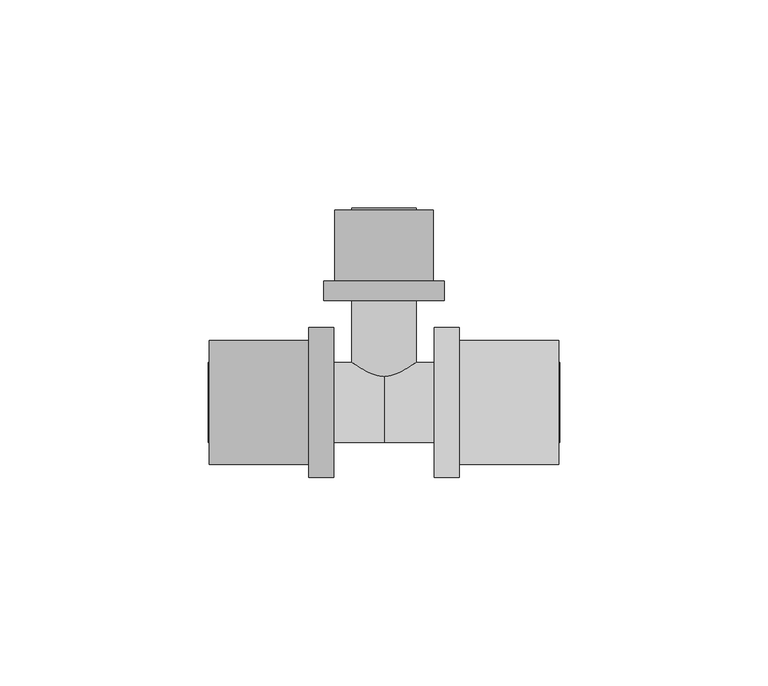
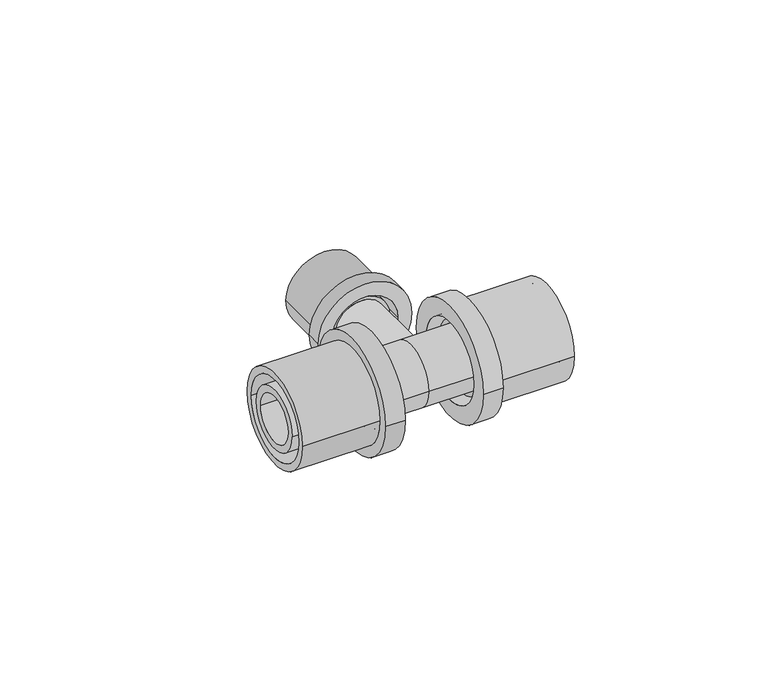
"""IFC4 building model written with IfcOpenShell, lengths in millimetres: pipe fitting geometry, FASTLOC_T-piece_EX+ : FSL T-Piece EX+ AT."""

from ifc_helpers import new_model, si_unit, frame, origin, place, context, project, spatial, polyline, circle_curve, source, transform, mapped, element, save
from ifc_brep_helpers import plane_surface, cylinder_surface, revolved_surface, advanced_brep


def pipe_fitting_24fba4d8(model_context):
    return source(origin(), model_context, "Body", "AdvancedBrep", [
        advanced_brep(
        [(18.1, 18.0, 0.0), (18.1, -18.0, 0.0), (12.1, -18.0, 0.0), (12.1, 18.0, 0.0), (41.9, 14.85, 0.0), (41.9, -14.85, 0.0), (18.1, -14.85, 0.0), (18.1, 14.85, 0.0), (12.1, 12.65, 0.0), (12.1, -12.65, 0.0), (41.9, -12.65, 0.0), (41.9, 12.65, 0.0)],
        [
            (0, 1, circle_curve(frame((18.1, 0.0, 0.0), z_axis=(-1.0, 0.0, 0.0), x_axis=(0.0, -1.0, 0.0)), 18.0)),
            (1, 2),
            (2, 3, circle_curve(frame((12.1, 0.0, 0.0), z_axis=(1.0, 0.0, 0.0), x_axis=(0.0, -1.0, 0.0)), 18.0)),
            (3, 0),
            (4, 5, circle_curve(frame((41.9, 0.0, 0.0), z_axis=(-1.0, 0.0, 0.0), x_axis=(0.0, -1.0, 0.0)), 14.85)),
            (5, 6),
            (6, 7, circle_curve(frame((18.1, 0.0, 0.0), z_axis=(1.0, 0.0, 0.0), x_axis=(0.0, -1.0, 0.0)), 14.85)),
            (7, 4),
            (8, 9, circle_curve(frame((12.1, 0.0, 0.0), z_axis=(-1.0, 0.0, 0.0), x_axis=(0.0, -1.0, 0.0)), 12.65)),
            (9, 10),
            (10, 11, circle_curve(frame((41.9, 0.0, 0.0), z_axis=(1.0, 0.0, 0.0), x_axis=(0.0, -1.0, 0.0)), 12.65)),
            (11, 8),
            (1, 0, circle_curve(frame((18.1, 0.0, 0.0), z_axis=(-1.0, 0.0, 0.0), x_axis=(0.0, 1.0, 0.0)), 18.0)),
            (3, 2, circle_curve(frame((12.1, 0.0, 0.0), z_axis=(1.0, 0.0, 0.0), x_axis=(0.0, 1.0, 0.0)), 18.0)),
            (6, 7, circle_curve(frame((18.1, 0.0, 0.0), z_axis=(-1.0, 0.0, 0.0), x_axis=(0.0, 1.0, 0.0)), 14.85)),
            (5, 4, circle_curve(frame((41.9, 0.0, 0.0), z_axis=(-1.0, 0.0, 0.0), x_axis=(0.0, 1.0, 0.0)), 14.85)),
            (10, 11, circle_curve(frame((41.9, 0.0, 0.0), z_axis=(-1.0, 0.0, 0.0), x_axis=(0.0, 1.0, 0.0)), 12.65)),
            (9, 8, circle_curve(frame((12.1, 0.0, 0.0), z_axis=(-1.0, 0.0, 0.0), x_axis=(0.0, 1.0, 0.0)), 12.65)),
        ],
        [
            cylinder_surface(frame((12.1, 0.0, 0.0), z_axis=(1.0, 0.0, 0.0), x_axis=(0.0, -1.0, 0.0)), 18.0),
            cylinder_surface(frame((12.1, 0.0, 0.0), z_axis=(1.0, 0.0, 0.0), x_axis=(0.0, -1.0, 0.0)), 14.85),
            revolved_surface(polyline([(41.9, -12.65, 0.0), (12.1, -12.65, 0.0)]), (12.1, 0.0, 0.0), (1.0, 0.0, 0.0)),
            cylinder_surface(frame((12.1, 0.0, 0.0), z_axis=(1.0, 0.0, 0.0), x_axis=(0.0, 1.0, 0.0)), 18.0),
            plane_surface(frame((18.1, 0.0, 0.0), z_axis=(1.0, 0.0, 0.0), x_axis=(0.0, 1.0, 0.0))),
            cylinder_surface(frame((12.1, 0.0, 0.0), z_axis=(1.0, 0.0, 0.0), x_axis=(0.0, 1.0, 0.0)), 14.85),
            plane_surface(frame((41.9, 0.0, 0.0), z_axis=(1.0, 0.0, 0.0), x_axis=(0.0, 1.0, 0.0))),
            revolved_surface(polyline([(41.9, 12.65, 0.0), (12.1, 12.65, 0.0)]), (12.1, 0.0, 0.0), (1.0, 0.0, 0.0)),
            plane_surface(frame((12.1, 0.0, 0.0), z_axis=(-1.0, 0.0, 0.0), x_axis=(0.0, 1.0, 0.0))),
        ],
        [
            (0, [[1, 2, 3, 4]]),
            (1, [[5, 6, 7, 8]]),
            (2, [[9, 10, 11, 12]]),
            (3, [[13, -4, 14, -2]]),
            (4, [[-13, -1], [15, -7]]),
            (5, [[16, -8, -15, -6]]),
            (6, [[-16, -5], [17, -11]]),
            (7, [[18, -12, -17, -10]]),
            (8, [[-14, -3], [-18, -9]]),
        ],
    ),
        advanced_brep(
        [(-18.1, -18.0, 0.0), (-18.1, 18.0, 0.0), (-12.1, 18.0, 0.0), (-12.1, -18.0, 0.0), (-41.9, -14.85, 0.0), (-41.9, 14.85, 0.0), (-18.1, 14.85, 0.0), (-18.1, -14.85, 0.0), (-12.1, -12.65, 0.0), (-12.1, 12.65, 0.0), (-41.9, 12.65, 0.0), (-41.9, -12.65, 0.0)],
        [
            (0, 1, circle_curve(frame((-18.1, 0.0, 0.0), z_axis=(1.0, 0.0, 0.0), x_axis=(0.0, 1.0, 0.0)), 18.0)),
            (1, 2),
            (2, 3, circle_curve(frame((-12.1, 0.0, 0.0), z_axis=(-1.0, 0.0, 0.0), x_axis=(0.0, 1.0, 0.0)), 18.0)),
            (3, 0),
            (4, 5, circle_curve(frame((-41.9, 0.0, 0.0), z_axis=(1.0, 0.0, 0.0), x_axis=(0.0, 1.0, 0.0)), 14.85)),
            (5, 6),
            (6, 7, circle_curve(frame((-18.1, 0.0, 0.0), z_axis=(-1.0, 0.0, 0.0), x_axis=(0.0, 1.0, 0.0)), 14.85)),
            (7, 4),
            (8, 9, circle_curve(frame((-12.1, 0.0, 0.0), z_axis=(1.0, 0.0, 0.0), x_axis=(0.0, 1.0, 0.0)), 12.65)),
            (9, 10),
            (10, 11, circle_curve(frame((-41.9, 0.0, 0.0), z_axis=(-1.0, 0.0, 0.0), x_axis=(0.0, 1.0, 0.0)), 12.65)),
            (11, 8),
            (1, 0, circle_curve(frame((-18.1, 0.0, 0.0), z_axis=(1.0, 0.0, 0.0), x_axis=(0.0, -1.0, 0.0)), 18.0)),
            (3, 2, circle_curve(frame((-12.1, 0.0, 0.0), z_axis=(-1.0, 0.0, 0.0), x_axis=(0.0, -1.0, 0.0)), 18.0)),
            (6, 7, circle_curve(frame((-18.1, 0.0, 0.0), z_axis=(1.0, 0.0, 0.0), x_axis=(0.0, -1.0, 0.0)), 14.85)),
            (5, 4, circle_curve(frame((-41.9, 0.0, 0.0), z_axis=(1.0, 0.0, 0.0), x_axis=(0.0, -1.0, 0.0)), 14.85)),
            (10, 11, circle_curve(frame((-41.9, 0.0, 0.0), z_axis=(1.0, 0.0, 0.0), x_axis=(0.0, -1.0, 0.0)), 12.65)),
            (9, 8, circle_curve(frame((-12.1, 0.0, 0.0), z_axis=(1.0, 0.0, 0.0), x_axis=(0.0, -1.0, 0.0)), 12.65)),
        ],
        [
            cylinder_surface(frame((-12.1, 0.0, 0.0), z_axis=(-1.0, 0.0, 0.0), x_axis=(0.0, 1.0, 0.0)), 18.0),
            cylinder_surface(frame((-12.1, 0.0, 0.0), z_axis=(-1.0, 0.0, 0.0), x_axis=(0.0, 1.0, 0.0)), 14.85),
            revolved_surface(polyline([(-41.9, 12.65, 0.0), (-12.1, 12.65, 0.0)]), (-12.1, 0.0, 0.0), (-1.0, 0.0, 0.0)),
            cylinder_surface(frame((-12.1, 0.0, 0.0), z_axis=(-1.0, 0.0, 0.0), x_axis=(0.0, -1.0, 0.0)), 18.0),
            plane_surface(frame((-18.1, 0.0, 0.0), z_axis=(-1.0, 0.0, 0.0), x_axis=(0.0, -1.0, 0.0))),
            cylinder_surface(frame((-12.1, 0.0, 0.0), z_axis=(-1.0, 0.0, 0.0), x_axis=(0.0, -1.0, 0.0)), 14.85),
            plane_surface(frame((-41.9, 0.0, 0.0), z_axis=(-1.0, 0.0, 0.0), x_axis=(0.0, -1.0, 0.0))),
            revolved_surface(polyline([(-41.9, -12.65, 0.0), (-12.1, -12.65, 0.0)]), (-12.1, 0.0, 0.0), (-1.0, 0.0, 0.0)),
            plane_surface(frame((-12.1, 0.0, 0.0), z_axis=(1.0, 0.0, 0.0), x_axis=(0.0, -1.0, 0.0))),
        ],
        [
            (0, [[1, 2, 3, 4]]),
            (1, [[5, 6, 7, 8]]),
            (2, [[9, 10, 11, 12]]),
            (3, [[13, -4, 14, -2]]),
            (4, [[-13, -1], [15, -7]]),
            (5, [[16, -8, -15, -6]]),
            (6, [[-16, -5], [17, -11]]),
            (7, [[18, -12, -17, -10]]),
            (8, [[-14, -3], [-18, -9]]),
        ],
    ),
        advanced_brep(
        [(-14.5, 29.2, 0.0), (14.5, 29.2, 0.0), (14.5, 24.5, 0.0), (-14.5, 24.5, 0.0), (-11.85, 46.2, 0.0), (11.85, 46.2, 0.0), (11.85, 29.2, 0.0), (-11.85, 29.2, 0.0), (-10.15, 24.5, 0.0), (10.15, 24.5, 0.0), (10.15, 46.2, 0.0), (-10.15, 46.2, 0.0)],
        [
            (0, 1, circle_curve(frame((0.0, 29.2, 0.0), z_axis=(0.0, -1.0, 0.0), x_axis=(1.0, 0.0, 0.0)), 14.5)),
            (1, 2),
            (2, 3, circle_curve(frame((0.0, 24.5, 0.0), z_axis=(0.0, 1.0, 0.0), x_axis=(1.0, 0.0, 0.0)), 14.5)),
            (3, 0),
            (4, 5, circle_curve(frame((0.0, 46.2, 0.0), z_axis=(0.0, -1.0, 0.0), x_axis=(1.0, 0.0, 0.0)), 11.85)),
            (5, 6),
            (6, 7, circle_curve(frame((0.0, 29.2, 0.0), z_axis=(0.0, 1.0, 0.0), x_axis=(1.0, 0.0, 0.0)), 11.85)),
            (7, 4),
            (8, 9, circle_curve(frame((0.0, 24.5, 0.0), z_axis=(0.0, -1.0, 0.0), x_axis=(1.0, 0.0, 0.0)), 10.15)),
            (9, 10),
            (10, 11, circle_curve(frame((0.0, 46.2, 0.0), z_axis=(0.0, 1.0, 0.0), x_axis=(1.0, 0.0, 0.0)), 10.15)),
            (11, 8),
            (1, 0, circle_curve(frame((0.0, 29.2, 0.0), z_axis=(0.0, -1.0, 0.0), x_axis=(-1.0, 0.0, 0.0)), 14.5)),
            (3, 2, circle_curve(frame((0.0, 24.5, 0.0), z_axis=(0.0, 1.0, 0.0), x_axis=(-1.0, 0.0, 0.0)), 14.5)),
            (6, 7, circle_curve(frame((0.0, 29.2, 0.0), z_axis=(0.0, -1.0, 0.0), x_axis=(-1.0, 0.0, 0.0)), 11.85)),
            (5, 4, circle_curve(frame((0.0, 46.2, 0.0), z_axis=(0.0, -1.0, 0.0), x_axis=(-1.0, 0.0, 0.0)), 11.85)),
            (10, 11, circle_curve(frame((0.0, 46.2, 0.0), z_axis=(0.0, -1.0, 0.0), x_axis=(-1.0, 0.0, 0.0)), 10.15)),
            (9, 8, circle_curve(frame((0.0, 24.5, 0.0), z_axis=(0.0, -1.0, 0.0), x_axis=(-1.0, 0.0, 0.0)), 10.15)),
        ],
        [
            cylinder_surface(frame((0.0, 24.5, 0.0), z_axis=(0.0, 1.0, 0.0), x_axis=(1.0, 0.0, 0.0)), 14.5),
            cylinder_surface(frame((0.0, 24.5, 0.0), z_axis=(0.0, 1.0, 0.0), x_axis=(1.0, 0.0, 0.0)), 11.85),
            revolved_surface(polyline([(10.15, 46.2, 0.0), (10.15, 24.5, 0.0)]), (0.0, 24.5, 0.0), (0.0, 1.0, 0.0)),
            cylinder_surface(frame((0.0, 24.5, 0.0), z_axis=(0.0, 1.0, 0.0), x_axis=(-1.0, 0.0, 0.0)), 14.5),
            plane_surface(frame((0.0, 29.2, 0.0), z_axis=(0.0, 1.0, 0.0), x_axis=(-1.0, 0.0, 0.0))),
            cylinder_surface(frame((0.0, 24.5, 0.0), z_axis=(0.0, 1.0, 0.0), x_axis=(-1.0, 0.0, 0.0)), 11.85),
            plane_surface(frame((0.0, 46.2, 0.0), z_axis=(0.0, 1.0, 0.0), x_axis=(-1.0, 0.0, 0.0))),
            revolved_surface(polyline([(-10.15, 46.2, 0.0), (-10.15, 24.5, 0.0)]), (0.0, 24.5, 0.0), (0.0, 1.0, 0.0)),
            plane_surface(frame((0.0, 24.5, 0.0), z_axis=(0.0, -1.0, 0.0), x_axis=(-1.0, 0.0, 0.0))),
        ],
        [
            (0, [[1, 2, 3, 4]]),
            (1, [[5, 6, 7, 8]]),
            (2, [[9, 10, 11, 12]]),
            (3, [[13, -4, 14, -2]]),
            (4, [[-13, -1], [15, -7]]),
            (5, [[16, -8, -15, -6]]),
            (6, [[-16, -5], [17, -11]]),
            (7, [[18, -12, -17, -10]]),
            (8, [[-14, -3], [-18, -9]]),
        ],
    ),
        advanced_brep(
        [(0.0, 9.6, 0.0), (0.0, -9.6, 0.0), (-15.3, -9.6, 0.0), (-15.3, 9.6, 0.0), (15.3, 9.6, 0.0), (15.3, -9.6, 0.0), (18.1, 11.1, 0.0), (18.1, -11.1, 0.0), (15.3, -11.1, 0.0), (15.3, 11.1, 0.0), (42.1, 9.6, 0.0), (42.1, -9.6, 0.0), (18.1, -9.6, 0.0), (18.1, 9.6, 0.0), (-42.1, 7.35, 0.0), (-42.1, -7.35, 0.0), (42.1, -7.35, 0.0), (42.1, 7.35, 0.0), (-18.1, 9.6, 0.0), (-18.1, -9.6, 0.0), (-42.1, -9.6, 0.0), (-42.1, 9.6, 0.0), (-15.3, 11.1, 0.0), (-15.3, -11.1, 0.0), (-18.1, -11.1, 0.0), (-18.1, 11.1, 0.0)],
        [
            (0, 1, circle_curve(frame((0.0, 0.0, 0.0), z_axis=(-1.0, 0.0, 0.0), x_axis=(0.0, -1.0, 0.0)), 9.6)),
            (1, 2),
            (2, 3, circle_curve(frame((-15.3, 0.0, 0.0), z_axis=(1.0, 0.0, 0.0), x_axis=(0.0, -1.0, 0.0)), 9.6)),
            (3, 0),
            (4, 5, circle_curve(frame((15.3, 0.0, 0.0), z_axis=(-1.0, 0.0, 0.0), x_axis=(0.0, -1.0, 0.0)), 9.6)),
            (5, 1),
            (0, 4),
            (6, 7, circle_curve(frame((18.1, 0.0, 0.0), z_axis=(-1.0, 0.0, 0.0), x_axis=(0.0, -1.0, 0.0)), 11.1)),
            (7, 8),
            (8, 9, circle_curve(frame((15.3, 0.0, 0.0), z_axis=(1.0, 0.0, 0.0), x_axis=(0.0, -1.0, 0.0)), 11.1)),
            (9, 6),
            (10, 11, circle_curve(frame((42.1, 0.0, 0.0), z_axis=(-1.0, 0.0, 0.0), x_axis=(0.0, -1.0, 0.0)), 9.6)),
            (11, 12),
            (12, 13, circle_curve(frame((18.1, 0.0, 0.0), z_axis=(1.0, 0.0, 0.0), x_axis=(0.0, -1.0, 0.0)), 9.6)),
            (13, 10),
            (14, 15, circle_curve(frame((-42.1, 0.0, 0.0), z_axis=(-1.0, 0.0, 0.0), x_axis=(0.0, -1.0, 0.0)), 7.35)),
            (15, 16),
            (16, 17, circle_curve(frame((42.1, 0.0, 0.0), z_axis=(1.0, 0.0, 0.0), x_axis=(0.0, -1.0, 0.0)), 7.35)),
            (17, 14),
            (18, 19, circle_curve(frame((-18.1, 0.0, 0.0), z_axis=(-1.0, 0.0, 0.0), x_axis=(0.0, -1.0, 0.0)), 9.6)),
            (19, 20),
            (20, 21, circle_curve(frame((-42.1, 0.0, 0.0), z_axis=(1.0, 0.0, 0.0), x_axis=(0.0, -1.0, 0.0)), 9.6)),
            (21, 18),
            (22, 23, circle_curve(frame((-15.3, 0.0, 0.0), z_axis=(-1.0, 0.0, 0.0), x_axis=(0.0, -1.0, 0.0)), 11.1)),
            (23, 24),
            (24, 25, circle_curve(frame((-18.1, 0.0, 0.0), z_axis=(1.0, 0.0, 0.0), x_axis=(0.0, -1.0, 0.0)), 11.1)),
            (25, 22),
            (22, 23, circle_curve(frame((-15.3, 0.0, 0.0), z_axis=(1.0, 0.0, 0.0), x_axis=(0.0, 1.0, 0.0)), 11.1)),
            (2, 3, circle_curve(frame((-15.3, 0.0, 0.0), z_axis=(-1.0, 0.0, 0.0), x_axis=(0.0, 1.0, 0.0)), 9.6)),
            (1, 0, circle_curve(frame((0.0, 0.0, 0.0), z_axis=(-1.0, 0.0, 0.0), x_axis=(0.0, 1.0, 0.0)), 9.6)),
            (5, 4, circle_curve(frame((15.3, 0.0, 0.0), z_axis=(-1.0, 0.0, 0.0), x_axis=(0.0, 1.0, 0.0)), 9.6)),
            (8, 9, circle_curve(frame((15.3, 0.0, 0.0), z_axis=(-1.0, 0.0, 0.0), x_axis=(0.0, 1.0, 0.0)), 11.1)),
            (7, 6, circle_curve(frame((18.1, 0.0, 0.0), z_axis=(-1.0, 0.0, 0.0), x_axis=(0.0, 1.0, 0.0)), 11.1)),
            (12, 13, circle_curve(frame((18.1, 0.0, 0.0), z_axis=(-1.0, 0.0, 0.0), x_axis=(0.0, 1.0, 0.0)), 9.6)),
            (11, 10, circle_curve(frame((42.1, 0.0, 0.0), z_axis=(-1.0, 0.0, 0.0), x_axis=(0.0, 1.0, 0.0)), 9.6)),
            (16, 17, circle_curve(frame((42.1, 0.0, 0.0), z_axis=(-1.0, 0.0, 0.0), x_axis=(0.0, 1.0, 0.0)), 7.35)),
            (15, 14, circle_curve(frame((-42.1, 0.0, 0.0), z_axis=(-1.0, 0.0, 0.0), x_axis=(0.0, 1.0, 0.0)), 7.35)),
            (20, 21, circle_curve(frame((-42.1, 0.0, 0.0), z_axis=(-1.0, 0.0, 0.0), x_axis=(0.0, 1.0, 0.0)), 9.6)),
            (19, 18, circle_curve(frame((-18.1, 0.0, 0.0), z_axis=(-1.0, 0.0, 0.0), x_axis=(0.0, 1.0, 0.0)), 9.6)),
            (24, 25, circle_curve(frame((-18.1, 0.0, 0.0), z_axis=(-1.0, 0.0, 0.0), x_axis=(0.0, 1.0, 0.0)), 11.1)),
        ],
        [
            cylinder_surface(frame((0.0, 0.0, 0.0), z_axis=(1.0, 0.0, 0.0), x_axis=(0.0, -1.0, 0.0)), 9.6),
            cylinder_surface(frame((0.0, 0.0, 0.0), z_axis=(1.0, 0.0, 0.0), x_axis=(0.0, -1.0, 0.0)), 11.1),
            revolved_surface(polyline([(42.1, -7.35, 0.0), (-42.1, -7.35, 0.0)]), (0.0, 0.0, 0.0), (1.0, 0.0, 0.0)),
            plane_surface(frame((-15.3, 0.0, 0.0), z_axis=(1.0, 0.0, 0.0), x_axis=(0.0, 1.0, 0.0))),
            cylinder_surface(frame((0.0, 0.0, 0.0), z_axis=(1.0, 0.0, 0.0), x_axis=(0.0, 1.0, 0.0)), 9.6),
            plane_surface(frame((15.3, 0.0, 0.0), z_axis=(-1.0, 0.0, 0.0), x_axis=(0.0, 1.0, 0.0))),
            cylinder_surface(frame((0.0, 0.0, 0.0), z_axis=(1.0, 0.0, 0.0), x_axis=(0.0, 1.0, 0.0)), 11.1),
            plane_surface(frame((18.1, 0.0, 0.0), z_axis=(1.0, 0.0, 0.0), x_axis=(0.0, 1.0, 0.0))),
            plane_surface(frame((42.1, 0.0, 0.0), z_axis=(1.0, 0.0, 0.0), x_axis=(0.0, 1.0, 0.0))),
            revolved_surface(polyline([(42.1, 7.35, 0.0), (-42.1, 7.35, 0.0)]), (0.0, 0.0, 0.0), (1.0, 0.0, 0.0)),
            plane_surface(frame((-42.1, 0.0, 0.0), z_axis=(-1.0, 0.0, 0.0), x_axis=(0.0, 1.0, 0.0))),
            plane_surface(frame((-18.1, 0.0, 0.0), z_axis=(-1.0, 0.0, 0.0), x_axis=(0.0, 1.0, 0.0))),
        ],
        [
            (0, [[1, 2, 3, 4]]),
            (0, [[5, 6, -1, 7]]),
            (1, [[8, 9, 10, 11]]),
            (0, [[12, 13, 14, 15]]),
            (2, [[16, 17, 18, 19]]),
            (0, [[20, 21, 22, 23]]),
            (1, [[24, 25, 26, 27]]),
            (3, [[28, -24], [29, -3]]),
            (4, [[30, -4, -29, -2]]),
            (4, [[31, -7, -30, -6]]),
            (5, [[32, -10], [-31, -5]]),
            (6, [[33, -11, -32, -9]]),
            (7, [[-33, -8], [34, -14]]),
            (4, [[35, -15, -34, -13]]),
            (8, [[-35, -12], [36, -18]]),
            (9, [[37, -19, -36, -17]]),
            (10, [[38, -22], [-37, -16]]),
            (4, [[39, -23, -38, -21]]),
            (11, [[40, -26], [-39, -20]]),
            (6, [[-28, -27, -40, -25]]),
        ],
    ),
        advanced_brep(
        [(5.75, 46.6, 0.0), (-5.75, 46.6, 0.0), (-5.75, 0.0, 0.0), (5.75, 0.0, 0.0), (7.75, 0.0, 0.0), (-7.75, 0.0, 0.0), (-7.75, 26.53, 0.0), (7.75, 26.53, 0.0), (8.8, 26.53, 0.0), (-8.8, 26.53, 0.0), (-8.8, 29.2, 0.0), (8.8, 29.2, 0.0), (7.75, 29.2, 0.0), (-7.75, 29.2, 0.0), (-7.75, 46.6, 0.0), (7.75, 46.6, 0.0)],
        [
            (0, 1, circle_curve(frame((0.0, 46.6, 0.0), z_axis=(0.0, 1.0, 0.0), x_axis=(-1.0, 0.0, 0.0)), 5.75)),
            (1, 2),
            (2, 3, circle_curve(frame((0.0, 0.0, 0.0), z_axis=(0.0, -1.0, 0.0), x_axis=(-1.0, 0.0, 0.0)), 5.75)),
            (3, 0),
            (4, 5, circle_curve(frame((0.0, 0.0, 0.0), z_axis=(0.0, 1.0, 0.0), x_axis=(-1.0, 0.0, 0.0)), 7.75)),
            (5, 6),
            (6, 7, circle_curve(frame((0.0, 26.53, 0.0), z_axis=(0.0, -1.0, 0.0), x_axis=(-1.0, 0.0, 0.0)), 7.75)),
            (7, 4),
            (8, 9, circle_curve(frame((0.0, 26.53, 0.0), z_axis=(0.0, 1.0, 0.0), x_axis=(-1.0, 0.0, 0.0)), 8.8)),
            (9, 10),
            (10, 11, circle_curve(frame((0.0, 29.2, 0.0), z_axis=(0.0, -1.0, 0.0), x_axis=(-1.0, 0.0, 0.0)), 8.8)),
            (11, 8),
            (12, 13, circle_curve(frame((0.0, 29.2, 0.0), z_axis=(0.0, 1.0, 0.0), x_axis=(-1.0, 0.0, 0.0)), 7.75)),
            (13, 14),
            (14, 15, circle_curve(frame((0.0, 46.6, 0.0), z_axis=(0.0, -1.0, 0.0), x_axis=(-1.0, 0.0, 0.0)), 7.75)),
            (15, 12),
            (1, 0, circle_curve(frame((0.0, 46.6, 0.0), z_axis=(0.0, 1.0, 0.0), x_axis=(1.0, 0.0, 0.0)), 5.75)),
            (3, 2, circle_curve(frame((0.0, 0.0, 0.0), z_axis=(0.0, -1.0, 0.0), x_axis=(1.0, 0.0, 0.0)), 5.75)),
            (4, 5, circle_curve(frame((0.0, 0.0, 0.0), z_axis=(0.0, -1.0, 0.0), x_axis=(1.0, 0.0, 0.0)), 7.75)),
            (7, 6, circle_curve(frame((0.0, 26.53, 0.0), z_axis=(0.0, -1.0, 0.0), x_axis=(1.0, 0.0, 0.0)), 7.75)),
            (8, 9, circle_curve(frame((0.0, 26.53, 0.0), z_axis=(0.0, -1.0, 0.0), x_axis=(1.0, 0.0, 0.0)), 8.8)),
            (11, 10, circle_curve(frame((0.0, 29.2, 0.0), z_axis=(0.0, -1.0, 0.0), x_axis=(1.0, 0.0, 0.0)), 8.8)),
            (12, 13, circle_curve(frame((0.0, 29.2, 0.0), z_axis=(0.0, -1.0, 0.0), x_axis=(1.0, 0.0, 0.0)), 7.75)),
            (15, 14, circle_curve(frame((0.0, 46.6, 0.0), z_axis=(0.0, -1.0, 0.0), x_axis=(1.0, 0.0, 0.0)), 7.75)),
        ],
        [
            revolved_surface(polyline([(-5.75, 0.0, 0.0), (-5.75, 46.6, 0.0)]), (0.0, 0.0, 0.0), (0.0, -1.0, 0.0)),
            cylinder_surface(frame((0.0, 0.0, 0.0), z_axis=(0.0, -1.0, 0.0), x_axis=(-1.0, 0.0, 0.0)), 7.75),
            cylinder_surface(frame((0.0, 0.0, 0.0), z_axis=(0.0, -1.0, 0.0), x_axis=(-1.0, 0.0, 0.0)), 8.8),
            revolved_surface(polyline([(5.75, 0.0, 0.0), (5.75, 46.6, 0.0)]), (0.0, 0.0, 0.0), (0.0, -1.0, 0.0)),
            plane_surface(frame((0.0, 0.0, 0.0), z_axis=(0.0, -1.0, 0.0), x_axis=(1.0, 0.0, 0.0))),
            cylinder_surface(frame((0.0, 0.0, 0.0), z_axis=(0.0, -1.0, 0.0), x_axis=(1.0, 0.0, 0.0)), 7.75),
            plane_surface(frame((0.0, 26.53, 0.0), z_axis=(0.0, -1.0, 0.0), x_axis=(1.0, 0.0, 0.0))),
            cylinder_surface(frame((0.0, 0.0, 0.0), z_axis=(0.0, -1.0, 0.0), x_axis=(1.0, 0.0, 0.0)), 8.8),
            plane_surface(frame((0.0, 29.2, 0.0), z_axis=(0.0, 1.0, 0.0), x_axis=(1.0, 0.0, 0.0))),
            plane_surface(frame((0.0, 46.6, 0.0), z_axis=(0.0, 1.0, 0.0), x_axis=(1.0, 0.0, 0.0))),
        ],
        [
            (0, [[1, 2, 3, 4]]),
            (1, [[5, 6, 7, 8]]),
            (2, [[9, 10, 11, 12]]),
            (1, [[13, 14, 15, 16]]),
            (3, [[17, -4, 18, -2]]),
            (4, [[19, -5], [-18, -3]]),
            (5, [[-19, -8, 20, -6]]),
            (6, [[21, -9], [-20, -7]]),
            (7, [[-21, -12, 22, -10]]),
            (8, [[-22, -11], [23, -13]]),
            (5, [[-23, -16, 24, -14]]),
            (9, [[-24, -15], [-17, -1]]),
        ],
    ),
    ])


if __name__ == "__main__":
    model = new_model("IFC4")
    model_context = context("Model", 3, world=origin())
    ifc_project = project(units=[si_unit("LENGTHUNIT", "METRE", prefix="MILLI")], contexts=[model_context])
    site = spatial("IfcSite", under=ifc_project)
    building = spatial("IfcBuilding", under=site)
    placement = place(None, origin())
    pipe_fitting_shape = pipe_fitting_24fba4d8(model_context)
    element("IfcPipeFitting", 1, ObjectType="FASTLOC_T-piece_EX+ : FSL T-Piece EX+ AT", at=placement, inside=building, context=model_context, shape_type="MappedRepresentation", body=[
        mapped(pipe_fitting_shape, transform((0.0, 0.0, 0.0), x_axis=(1.0, 0.0, 0.0), y_axis=(0.0, 1.0, 0.0), z_axis=(0.0, 0.0, 1.0))),
    ])
    save(model, "model.ifc")
